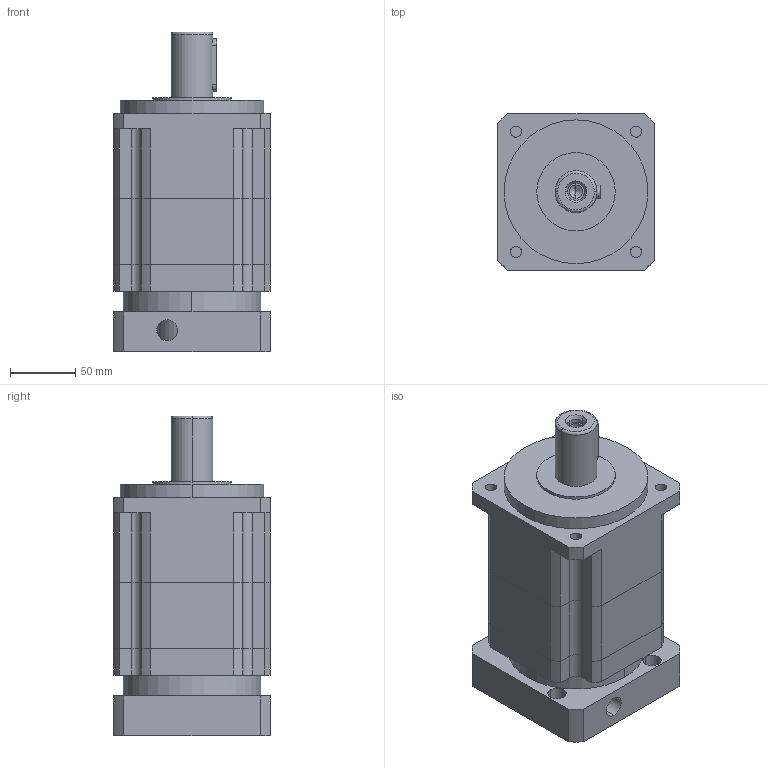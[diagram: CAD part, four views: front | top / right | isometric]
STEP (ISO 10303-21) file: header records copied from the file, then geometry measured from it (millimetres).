
FILE_DESCRIPTION (( 'STEP AP203' ), '1' );
FILE_NAME ('PAG120-L2-19-95-115.STEP', '2024-03-29T03:15:35', ( 'Windows User' ), ( 'P R C' ), 'SwSTEP 2.0', 'SolidWorks 2016', '' );
FILE_SCHEMA (( 'CONFIG_CONTROL_DESIGN' ));
Length unit declared in the file: millimetre
Products named in the file (8): PAG120-二级齿圈; PAG120-L2-19-95-115; PAG120-本体齿圈; PAG120-薊粣ん-19_LZ03; PAG120-蟀諉-95-M8-115-LR60; 囀鞠褒蹟佪-M8℅25; 邧埴瑩 10x8x40; 粣創-6009 45x75x16
Assembly tree (7 placements, depth 2):
  PAG120-L2-19-95-115
    PAG120-本体齿圈
    PAG120-薊粣ん-19_LZ03
    PAG120-蟀諉-95-M8-115-LR60
    囀鞠褒蹟佪-M8℅25
    邧埴瑩 10x8x40
    粣創-6009 45x75x16
    PAG120-二级齿圈
Bounding box: 120 x 120 x 244.5 mm (x, y, z)
Volume: 2246820.3 mm3; surface area: 256053.3 mm2
Topology: 7 solids, 7 shells, 1014 faces, 2779 edges, 1832 vertices
Faces by surface type: plane 552, bspline 282, cylinder 164, cone 16
Entity records: 44091 total; most frequent: CARTESIAN_POINT 19224, ORIENTED_EDGE 5530, DIRECTION 4093, EDGE_CURVE 2765, VERTEX_POINT 1828, LINE 1595, VECTOR 1595, AXIS2_PLACEMENT_3D 1249
